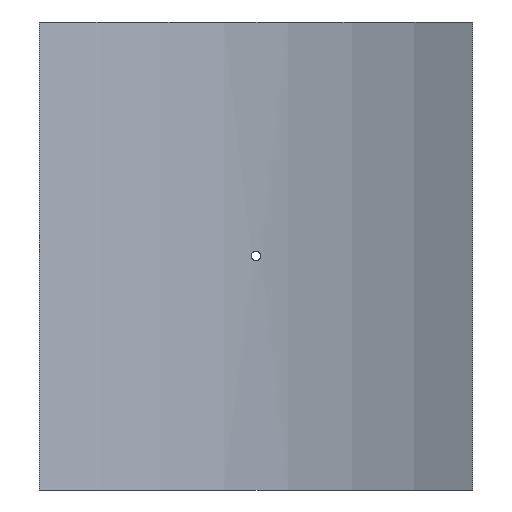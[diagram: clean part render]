
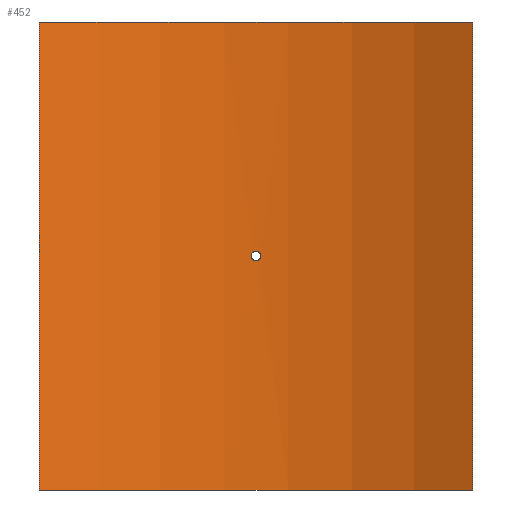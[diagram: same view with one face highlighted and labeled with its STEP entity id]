
A CAD part, front view. The second image highlights one B-rep face of the part: STEP entity #452.
In plain terms, the highlighted cylindrical face has radius 450 mm (diameter 900 mm), a partial arc.
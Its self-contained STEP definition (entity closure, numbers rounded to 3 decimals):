
#19=B_SPLINE_CURVE_WITH_KNOTS('',3,(#788,#789,#790,#791,#792,#793,#794,
#795,#796,#797,#798,#799,#800,#801,#802,#803,#804,#805,#806,#807,#808,#809,
#810,#811,#812,#813,#814,#815,#816,#817,#818,#819,#820,#821),
 .UNSPECIFIED.,.T.,.F.,(4,2,2,2,2,2,2,2,2,2,2,2,2,2,2,2,4),(0.,0.181,
0.362,0.542,0.723,0.904,
1.085,1.266,1.446,1.627,1.808,
1.989,2.17,2.351,2.531,2.712,
2.893),.UNSPECIFIED.);
#43=LINE('',#1065,#62);
#44=LINE('',#1068,#63);
#62=VECTOR('',#661,10.);
#63=VECTOR('',#664,10.);
#76=CYLINDRICAL_SURFACE('',#530,450.);
#88=FACE_BOUND('',#167,.T.);
#127=FACE_OUTER_BOUND('',#166,.T.);
#166=EDGE_LOOP('',(#405,#406,#407,#408));
#167=EDGE_LOOP('',(#409));
#201=CIRCLE('',#529,450.);
#202=CIRCLE('',#531,450.);
#219=VERTEX_POINT('',#786);
#242=VERTEX_POINT('',#1058);
#243=VERTEX_POINT('',#1060);
#244=VERTEX_POINT('',#1064);
#245=VERTEX_POINT('',#1066);
#267=EDGE_CURVE('',#219,#219,#19,.T.);
#299=EDGE_CURVE('',#242,#243,#201,.T.);
#301=EDGE_CURVE('',#244,#242,#43,.T.);
#302=EDGE_CURVE('',#245,#244,#202,.T.);
#303=EDGE_CURVE('',#245,#243,#44,.T.);
#405=ORIENTED_EDGE('',*,*,#301,.F.);
#406=ORIENTED_EDGE('',*,*,#302,.F.);
#407=ORIENTED_EDGE('',*,*,#303,.T.);
#408=ORIENTED_EDGE('',*,*,#299,.F.);
#409=ORIENTED_EDGE('',*,*,#267,.T.);
#452=ADVANCED_FACE('',(#127,#88),#76,.F.);
#529=AXIS2_PLACEMENT_3D('',#1061,#656,#657);
#530=AXIS2_PLACEMENT_3D('',#1063,#659,#660);
#531=AXIS2_PLACEMENT_3D('',#1067,#662,#663);
#656=DIRECTION('center_axis',(0.,0.,1.));
#657=DIRECTION('ref_axis',(0.483,0.875,0.));
#659=DIRECTION('center_axis',(0.,0.,1.));
#660=DIRECTION('ref_axis',(0.483,0.875,0.));
#661=DIRECTION('',(0.,0.,-1.));
#662=DIRECTION('center_axis',(0.,0.,-1.));
#663=DIRECTION('ref_axis',(0.483,0.875,0.));
#664=DIRECTION('',(0.,0.,-1.));
#786=CARTESIAN_POINT('',(4.8,449.974,0.));
#788=CARTESIAN_POINT('Ctrl Pts',(4.8,449.974,0.));
#789=CARTESIAN_POINT('Ctrl Pts',(4.8,449.974,-0.603));
#790=CARTESIAN_POINT('Ctrl Pts',(4.68,449.976,-1.246));
#791=CARTESIAN_POINT('Ctrl Pts',(4.19,449.981,-2.428));
#792=CARTESIAN_POINT('Ctrl Pts',(3.82,449.984,-2.968));
#793=CARTESIAN_POINT('Ctrl Pts',(2.968,449.99,-3.82));
#794=CARTESIAN_POINT('Ctrl Pts',(2.428,449.994,-4.19));
#795=CARTESIAN_POINT('Ctrl Pts',(1.246,449.999,-4.68));
#796=CARTESIAN_POINT('Ctrl Pts',(0.603,450.,-4.8));
#797=CARTESIAN_POINT('Ctrl Pts',(-0.603,450.,-4.8));
#798=CARTESIAN_POINT('Ctrl Pts',(-1.246,449.999,-4.68));
#799=CARTESIAN_POINT('Ctrl Pts',(-2.428,449.994,-4.19));
#800=CARTESIAN_POINT('Ctrl Pts',(-2.968,449.99,-3.82));
#801=CARTESIAN_POINT('Ctrl Pts',(-3.82,449.984,-2.968));
#802=CARTESIAN_POINT('Ctrl Pts',(-4.19,449.981,-2.428));
#803=CARTESIAN_POINT('Ctrl Pts',(-4.68,449.976,-1.246));
#804=CARTESIAN_POINT('Ctrl Pts',(-4.8,449.974,-0.603));
#805=CARTESIAN_POINT('Ctrl Pts',(-4.8,449.974,0.603));
#806=CARTESIAN_POINT('Ctrl Pts',(-4.68,449.976,1.246));
#807=CARTESIAN_POINT('Ctrl Pts',(-4.19,449.981,2.428));
#808=CARTESIAN_POINT('Ctrl Pts',(-3.82,449.984,2.968));
#809=CARTESIAN_POINT('Ctrl Pts',(-2.968,449.99,3.82));
#810=CARTESIAN_POINT('Ctrl Pts',(-2.428,449.994,4.19));
#811=CARTESIAN_POINT('Ctrl Pts',(-1.246,449.999,4.68));
#812=CARTESIAN_POINT('Ctrl Pts',(-0.603,450.,4.8));
#813=CARTESIAN_POINT('Ctrl Pts',(0.603,450.,4.8));
#814=CARTESIAN_POINT('Ctrl Pts',(1.246,449.999,4.68));
#815=CARTESIAN_POINT('Ctrl Pts',(2.428,449.994,4.19));
#816=CARTESIAN_POINT('Ctrl Pts',(2.968,449.99,3.82));
#817=CARTESIAN_POINT('Ctrl Pts',(3.82,449.984,2.968));
#818=CARTESIAN_POINT('Ctrl Pts',(4.19,449.981,2.428));
#819=CARTESIAN_POINT('Ctrl Pts',(4.68,449.976,1.246));
#820=CARTESIAN_POINT('Ctrl Pts',(4.8,449.974,0.603));
#821=CARTESIAN_POINT('Ctrl Pts',(4.8,449.974,0.));
#1058=CARTESIAN_POINT('',(217.5,393.946,-235.));
#1060=CARTESIAN_POINT('',(-217.5,393.946,-235.));
#1061=CARTESIAN_POINT('Origin',(0.,0.,
-235.));
#1063=CARTESIAN_POINT('Origin',(0.,0.,
0.));
#1064=CARTESIAN_POINT('',(217.5,393.946,235.));
#1065=CARTESIAN_POINT('',(217.5,393.946,0.));
#1066=CARTESIAN_POINT('',(-217.5,393.946,235.));
#1067=CARTESIAN_POINT('Origin',(0.,0.,
235.));
#1068=CARTESIAN_POINT('',(-217.5,393.946,0.));
